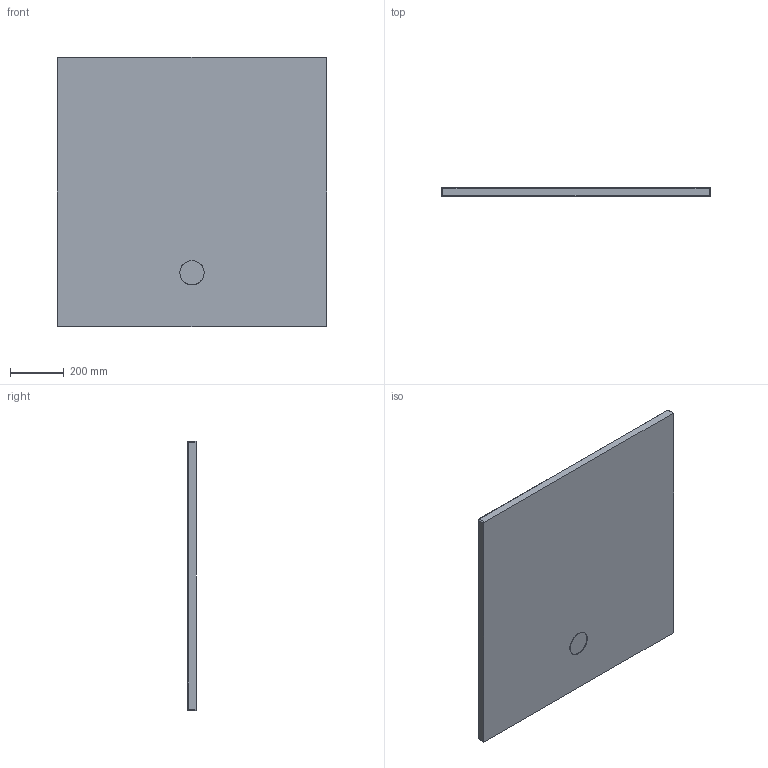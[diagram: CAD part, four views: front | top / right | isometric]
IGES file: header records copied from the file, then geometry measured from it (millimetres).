
Start section: SolidWorks IGES file using analytic representation for surfaces
Global section: file name: D:\Users\M.Szymanski\Desktop\Brodziki\SOLA\03. do przegrania\B_M_SOLA_100x100x1,5.IGS; native system: SolidWorks 2011; preprocessor: SolidWorks 2011; author: M.Szymanski; date: 180309.070555; units: millimetre
Bounding box: 1000 x 30 x 1000 mm (x, y, z)
Surface area: 2195334.1 mm2 (no closed solid volume)
Topology: 0 solids, 0 shells, 99 faces, 910 edges, 906 vertices
Faces by surface type: bspline 63, revolution 36
